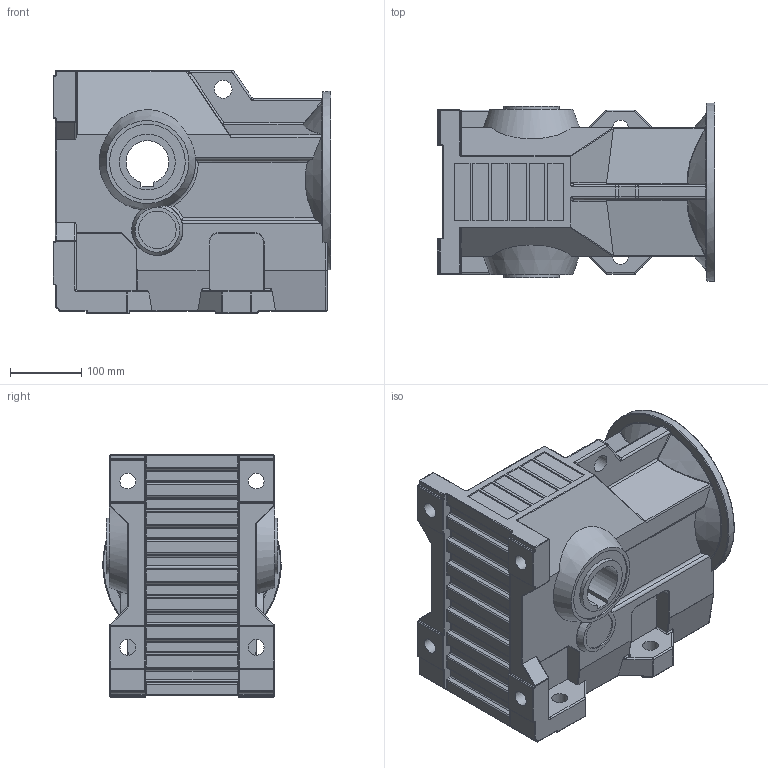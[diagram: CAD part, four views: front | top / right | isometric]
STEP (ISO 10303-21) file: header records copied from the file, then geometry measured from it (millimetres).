
FILE_DESCRIPTION((''),'2;1');
FILE_NAME('F:\PAWEŁ\ZLECENIA\2011 DualSystem\Przekładnie DK\001 Modele\DKAB80_\DK_80_STEP\DK_B_80.stp','2012-06-26T19:09:51',('admin'),(''),'Autodesk Inventor 2009','Autodesk Inventor 2009','');
FILE_SCHEMA(('AUTOMOTIVE_DESIGN { 1 0 10303 214 1 1 1 1 }'));
Length unit declared in the file: millimetre
Products named in the file (1): DK_B_80
Bounding box: 389 x 249.87 x 340 mm (x, y, z)
Volume: 19615956.7 mm3; surface area: 684110.3 mm2
Topology: 1 solids, 1 shells, 764 faces, 1854 edges, 1063 vertices
Faces by surface type: cylinder 346, plane 168, bspline 146, sphere 55, torus 39, cone 10
Full cylindrical faces by diameter (mm): 22 x4, 25 x1, 52.674 x2, 78.074 x1, 106.074 x1, 170 x1, 250 x1
Entity records: 26225 total; most frequent: CARTESIAN_POINT 8878, DIRECTION 3746, ORIENTED_EDGE 3518, EDGE_CURVE 1759, AXIS2_PLACEMENT_3D 1463, VERTEX_POINT 1034, EDGE_LOOP 821, VECTOR 820
